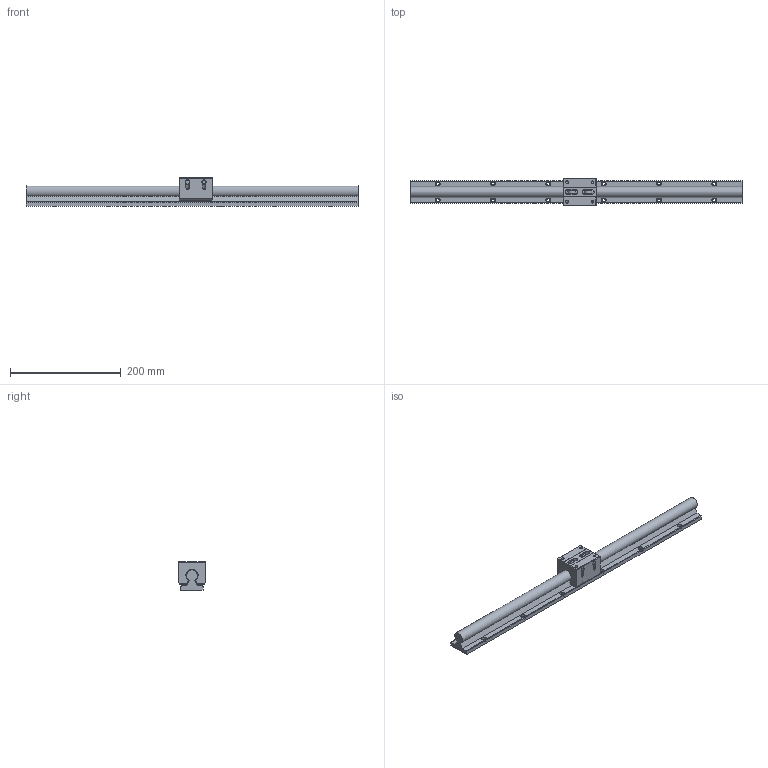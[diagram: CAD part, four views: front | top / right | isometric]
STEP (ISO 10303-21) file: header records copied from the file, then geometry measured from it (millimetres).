
FILE_DESCRIPTION((''),'2;1');
FILE_NAME('D:\製品 (図面)\カタログ用3D\リニアガイド関連\STEP形式\SLGB\SLGB20.stp','2010-06-02T16:56:11',('Tsuchiya'),(''),'Autodesk Inventor 10','Autodesk Inventor 10','');
FILE_SCHEMA(('AUTOMOTIVE_DESIGN { 1 0 10303 214 1 1 1 1 }'));
Length unit declared in the file: millimetre
Products named in the file (3): SLGB20; SLGB201; SLGB202
Assembly tree (2 placements, depth 2):
  SLGB20
    SLGB201
    SLGB202
Bounding box: 600 x 50 x 52 mm (x, y, z)
Volume: 533460.7 mm3; surface area: 118264.9 mm2
Topology: 2 solids, 2 shells, 239 faces, 589 edges, 382 vertices
Faces by surface type: bspline 109, plane 76, cylinder 31, cone 20, torus 3
Full cylindrical faces by diameter (mm): 4.917 x2, 5 x3, 5.5 x3, 6.5 x3, 8 x3, 14 x3
Entity records: 7692 total; most frequent: CARTESIAN_POINT 2902, ORIENTED_EDGE 918, DIRECTION 849, EDGE_CURVE 459, EDGE_LOOP 391, VERTEX_POINT 344, AXIS2_PLACEMENT_3D 321, FACE_OUTER_BOUND 239
